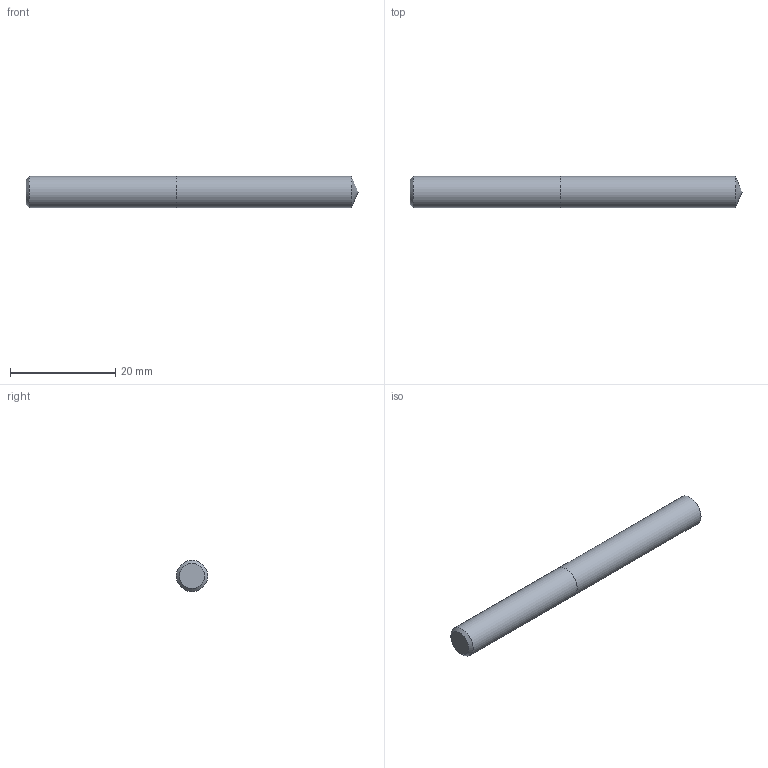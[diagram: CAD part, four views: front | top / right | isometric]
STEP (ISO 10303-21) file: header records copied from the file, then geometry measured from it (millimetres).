
FILE_DESCRIPTION (( 'STEP AP214' ), '1' );
FILE_NAME ('03-2414.STEP', '2022-06-03T07:27:20', ( 'USER' ), ( '' ), 'SwSTEP 2.0', 'SolidWorks 2018', '' );
FILE_SCHEMA (( 'AUTOMOTIVE_DESIGN' ));
Length unit declared in the file: inch
Products named in the file (1): 03-2414
Bounding box: 63.15 x 5.95 x 5.95 mm (x, y, z)
Volume: 1731.6 mm3; surface area: 1264.6 mm2
Topology: 2 solids, 2 shells, 7 faces, 11 edges, 7 vertices
Faces by surface type: plane 3, cylinder 2, cone 2
Full cylindrical faces by diameter (mm): 5.953 x2
Entity records: 214 total; most frequent: DIRECTION 26, CARTESIAN_POINT 18, AXIS2_PLACEMENT_3D 13, EDGE_LOOP 10, ORIENTED_EDGE 10, FACE_OUTER_BOUND 9, LENGTH_MEASURE_WITH_UNIT 7, ADVANCED_FACE 7
